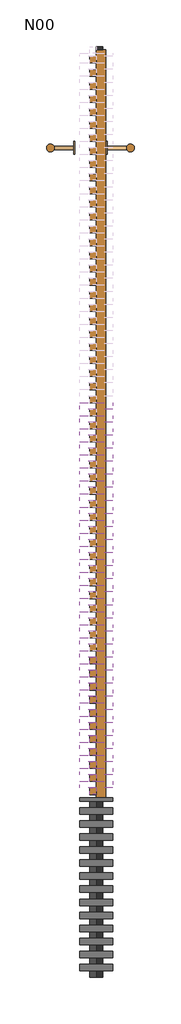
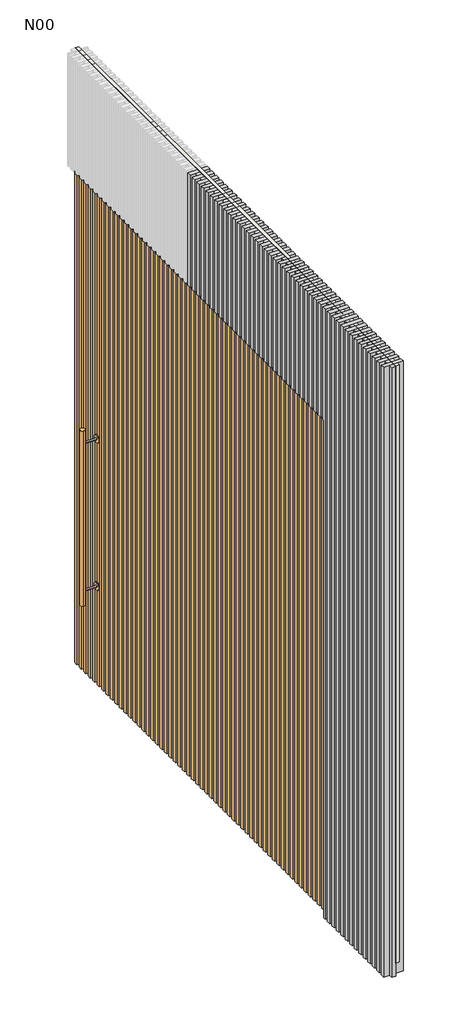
# One storey, part 1 of 2: 44 plates, 25 members, 1 door, 1 wall.
"""IFC4 building model written with IfcOpenShell, lengths in millimetres."""

from ifc_helpers import new_model, si_unit, frame, origin, place, context, project, spatial, polyline, outline, extrude, transform, mapped, element, save
from components import door_230x270cm_dd2fdfbe, montante_retangular_39d8b0db, montante_retangular_b7862d56, montante_retangular_da59f7c3, painel_do_sistema_vazio_vazio_6774419f, painel_do_sistema_vazio_vazio_94448bae, painel_do_sistema_vazio_vazio_ec5db678, painel_do_sistema_vazio_vazio_6ddfdf0a

model = new_model("IFC4")

# Units and contexts
model_context = context("Model", 3, world=origin())
ifc_project = project(units=[si_unit("LENGTHUNIT", "METRE", prefix="MILLI")], contexts=[model_context])

# Site, building, storey
site = spatial("IfcSite", under=ifc_project)
building = spatial("IfcBuilding", under=site)
storey = spatial("IfcBuildingStorey", under=building, Name="N00", Elevation=0.0)

# Door
placement = place(None, origin())
door_230x270cm_shape = door_230x270cm_dd2fdfbe(model_context)
element("IfcDoor", 1, ObjectType="ARQ_Porta_Pivotante_1F_Ripado : 230x270cm", at=placement, inside=storey, context=model_context, shape_type="MappedRepresentation", body=[
    mapped(door_230x270cm_shape, transform((11838.4106986, 1710.8169004, 0.0), x_axis=(0.0, 1.0, 0.0), y_axis=(-1.0, 0.0, 0.0), z_axis=(0.0, 0.0, 1.0))),
])

# Members
montante_retangular_shape = montante_retangular_39d8b0db(model_context)
element("IfcMember", 2, ObjectType="Montante retangular : ARQ_RIPAS", at=placement, inside=storey, context=model_context, shape_type="MappedRepresentation", body=[
    mapped(montante_retangular_shape, transform((11828.4106986, 70.8169007, 0.0), x_axis=(0.0, 1.0, 0.0), y_axis=(1.0, 0.0, 0.0), z_axis=(0.0, 0.0, -1.0))),
])
element("IfcMember", 3, ObjectType="Montante retangular : ARQ_RIPAS", at=placement, inside=storey, context=model_context, shape_type="MappedRepresentation", body=[
    mapped(montante_retangular_shape, transform((11828.4106986, 110.8169007, 0.0), x_axis=(0.0, 1.0, 0.0), y_axis=(1.0, 0.0, 0.0), z_axis=(0.0, 0.0, -1.0))),
])
element("IfcMember", 4, ObjectType="Montante retangular : ARQ_RIPAS", at=placement, inside=storey, context=model_context, shape_type="MappedRepresentation", body=[
    mapped(montante_retangular_shape, transform((11828.4106986, 150.8169007, 0.0), x_axis=(0.0, 1.0, 0.0), y_axis=(1.0, 0.0, 0.0), z_axis=(0.0, 0.0, -1.0))),
])
element("IfcMember", 5, ObjectType="Montante retangular : ARQ_RIPAS", at=placement, inside=storey, context=model_context, shape_type="MappedRepresentation", body=[
    mapped(montante_retangular_shape, transform((11828.4106986, 190.8169007, 0.0), x_axis=(0.0, 1.0, 0.0), y_axis=(1.0, 0.0, 0.0), z_axis=(0.0, 0.0, -1.0))),
])
element("IfcMember", 6, ObjectType="Montante retangular : ARQ_RIPAS", at=placement, inside=storey, context=model_context, shape_type="MappedRepresentation", body=[
    mapped(montante_retangular_shape, transform((11828.4106986, 230.8169007, 0.0), x_axis=(0.0, 1.0, 0.0), y_axis=(1.0, 0.0, 0.0), z_axis=(0.0, 0.0, -1.0))),
])
element("IfcMember", 7, ObjectType="Montante retangular : ARQ_RIPAS", at=placement, inside=storey, context=model_context, shape_type="MappedRepresentation", body=[
    mapped(montante_retangular_shape, transform((11828.4106986, 270.8169007, 0.0), x_axis=(0.0, 1.0, 0.0), y_axis=(1.0, 0.0, 0.0), z_axis=(0.0, 0.0, -1.0))),
])
element("IfcMember", 8, ObjectType="Montante retangular : ARQ_RIPAS", at=placement, inside=storey, context=model_context, shape_type="MappedRepresentation", body=[
    mapped(montante_retangular_shape, transform((11828.4106986, 310.8169007, 0.0), x_axis=(0.0, 1.0, 0.0), y_axis=(1.0, 0.0, 0.0), z_axis=(0.0, 0.0, -1.0))),
])
element("IfcMember", 9, ObjectType="Montante retangular : ARQ_RIPAS", at=placement, inside=storey, context=model_context, shape_type="MappedRepresentation", body=[
    mapped(montante_retangular_shape, transform((11828.4106986, 350.8169007, 0.0), x_axis=(0.0, 1.0, 0.0), y_axis=(1.0, 0.0, 0.0), z_axis=(0.0, 0.0, -1.0))),
])
element("IfcMember", 10, ObjectType="Montante retangular : ARQ_RIPAS", at=placement, inside=storey, context=model_context, shape_type="MappedRepresentation", body=[
    mapped(montante_retangular_shape, transform((11828.4106986, 390.8169007, 0.0), x_axis=(0.0, 1.0, 0.0), y_axis=(1.0, 0.0, 0.0), z_axis=(0.0, 0.0, -1.0))),
])
element("IfcMember", 11, ObjectType="Montante retangular : ARQ_RIPAS", at=placement, inside=storey, context=model_context, shape_type="MappedRepresentation", body=[
    mapped(montante_retangular_shape, transform((11828.4106986, 430.8169007, 0.0), x_axis=(0.0, 1.0, 0.0), y_axis=(1.0, 0.0, 0.0), z_axis=(0.0, 0.0, -1.0))),
])
element("IfcMember", 12, ObjectType="Montante retangular : ARQ_RIPAS", at=placement, inside=storey, context=model_context, shape_type="MappedRepresentation", body=[
    mapped(montante_retangular_shape, transform((11828.4106986, 470.8169007, 0.0), x_axis=(0.0, 1.0, 0.0), y_axis=(1.0, 0.0, 0.0), z_axis=(0.0, 0.0, -1.0))),
])
element("IfcMember", 13, ObjectType="Montante retangular : ARQ_RIPAS", at=placement, inside=storey, context=model_context, shape_type="MappedRepresentation", body=[
    mapped(montante_retangular_shape, transform((11828.4106986, 510.8169007, 0.0), x_axis=(0.0, 1.0, 0.0), y_axis=(1.0, 0.0, 0.0), z_axis=(0.0, 0.0, -1.0))),
])
element("IfcMember", 14, ObjectType="Montante retangular : ARQ_RIPAS", at=placement, inside=storey, context=model_context, shape_type="MappedRepresentation", body=[
    mapped(montante_retangular_shape, transform((11828.4106986, 550.8169007, 0.0), x_axis=(0.0, 1.0, 0.0), y_axis=(1.0, 0.0, 0.0), z_axis=(0.0, 0.0, -1.0))),
])
montante_retangular_2_shape = montante_retangular_b7862d56(model_context)
element("IfcMember", 15, ObjectType="Montante retangular : ARQ_RIPAS", at=placement, inside=storey, context=model_context, shape_type="MappedRepresentation", body=[
    mapped(montante_retangular_2_shape, transform((11828.4106986, 20.8169004, 3310.0), x_axis=(0.0, -1.0, 0.0), y_axis=(1.0, 0.0, 0.0), z_axis=(0.0, 0.0, 1.0))),
])
montante_retangular_3_shape = montante_retangular_da59f7c3(model_context)
element("IfcMember", 16, ObjectType="Montante retangular : ARQ_RIPAS", at=placement, inside=storey, context=model_context, shape_type="MappedRepresentation", body=[
    mapped(montante_retangular_3_shape, transform((11828.4106986, 590.8169007, 2700.0), x_axis=(0.0, 1.0, 0.0), y_axis=(1.0, 0.0, 0.0), z_axis=(0.0, 0.0, -1.0))),
])
element("IfcMember", 17, ObjectType="Montante retangular : ARQ_RIPAS", at=placement, inside=storey, context=model_context, shape_type="MappedRepresentation", body=[
    mapped(montante_retangular_3_shape, transform((11828.4106986, 630.8169007, 2700.0), x_axis=(0.0, 1.0, 0.0), y_axis=(1.0, 0.0, 0.0), z_axis=(0.0, 0.0, -1.0))),
])
element("IfcMember", 18, ObjectType="Montante retangular : ARQ_RIPAS", at=placement, inside=storey, context=model_context, shape_type="MappedRepresentation", body=[
    mapped(montante_retangular_3_shape, transform((11828.4106986, 670.8169007, 2700.0), x_axis=(0.0, 1.0, 0.0), y_axis=(1.0, 0.0, 0.0), z_axis=(0.0, 0.0, -1.0))),
])
element("IfcMember", 19, ObjectType="Montante retangular : ARQ_RIPAS", at=placement, inside=storey, context=model_context, shape_type="MappedRepresentation", body=[
    mapped(montante_retangular_3_shape, transform((11828.4106986, 710.8169007, 2700.0), x_axis=(0.0, 1.0, 0.0), y_axis=(1.0, 0.0, 0.0), z_axis=(0.0, 0.0, -1.0))),
])
element("IfcMember", 20, ObjectType="Montante retangular : ARQ_RIPAS", at=placement, inside=storey, context=model_context, shape_type="MappedRepresentation", body=[
    mapped(montante_retangular_3_shape, transform((11828.4106986, 750.8169007, 2700.0), x_axis=(0.0, 1.0, 0.0), y_axis=(1.0, 0.0, 0.0), z_axis=(0.0, 0.0, -1.0))),
])
element("IfcMember", 21, ObjectType="Montante retangular : ARQ_RIPAS", at=placement, inside=storey, context=model_context, shape_type="MappedRepresentation", body=[
    mapped(montante_retangular_3_shape, transform((11828.4106986, 790.8169007, 2700.0), x_axis=(0.0, 1.0, 0.0), y_axis=(1.0, 0.0, 0.0), z_axis=(0.0, 0.0, -1.0))),
])
element("IfcMember", 22, ObjectType="Montante retangular : ARQ_RIPAS", at=placement, inside=storey, context=model_context, shape_type="MappedRepresentation", body=[
    mapped(montante_retangular_3_shape, transform((11828.4106986, 830.8169007, 2700.0), x_axis=(0.0, 1.0, 0.0), y_axis=(1.0, 0.0, 0.0), z_axis=(0.0, 0.0, -1.0))),
])
element("IfcMember", 23, ObjectType="Montante retangular : ARQ_RIPAS", at=placement, inside=storey, context=model_context, shape_type="MappedRepresentation", body=[
    mapped(montante_retangular_3_shape, transform((11828.4106986, 870.8169007, 2700.0), x_axis=(0.0, 1.0, 0.0), y_axis=(1.0, 0.0, 0.0), z_axis=(0.0, 0.0, -1.0))),
])
element("IfcMember", 24, ObjectType="Montante retangular : ARQ_RIPAS", at=placement, inside=storey, context=model_context, shape_type="MappedRepresentation", body=[
    mapped(montante_retangular_3_shape, transform((11828.4106986, 910.8169007, 2700.0), x_axis=(0.0, 1.0, 0.0), y_axis=(1.0, 0.0, 0.0), z_axis=(0.0, 0.0, -1.0))),
])
element("IfcMember", 25, ObjectType="Montante retangular : ARQ_RIPAS", at=placement, inside=storey, context=model_context, shape_type="MappedRepresentation", body=[
    mapped(montante_retangular_3_shape, transform((11828.4106986, 950.8169007, 2700.0), x_axis=(0.0, 1.0, 0.0), y_axis=(1.0, 0.0, 0.0), z_axis=(0.0, 0.0, -1.0))),
])
element("IfcMember", 26, ObjectType="Montante retangular : ARQ_RIPAS", at=placement, inside=storey, context=model_context, shape_type="MappedRepresentation", body=[
    mapped(montante_retangular_3_shape, transform((11828.4106986, 990.8169007, 2700.0), x_axis=(0.0, 1.0, 0.0), y_axis=(1.0, 0.0, 0.0), z_axis=(0.0, 0.0, -1.0))),
])

# Plates
painel_do_sistema_vazio_vazio_shape = painel_do_sistema_vazio_vazio_6774419f(model_context)
element("IfcPlate", 27, ObjectType="Painel do sistema vazio : Vazio", at=placement, inside=storey, context=model_context, shape_type="MappedRepresentation", body=[
    mapped(painel_do_sistema_vazio_vazio_shape, transform((11828.4106986, 50.8169005, 0.0), x_axis=(0.0, 1.0, 0.0), y_axis=(-1.0, 0.0, 0.0), z_axis=(0.0, 0.0, 1.0))),
])
painel_do_sistema_vazio_vazio_2_shape = painel_do_sistema_vazio_vazio_94448bae(model_context)
element("IfcPlate", 28, ObjectType="Painel do sistema vazio : Vazio", at=placement, inside=storey, context=model_context, shape_type="MappedRepresentation", body=[
    mapped(painel_do_sistema_vazio_vazio_2_shape, transform((11828.4106986, 90.8169007, 0.0), x_axis=(0.0, 1.0, 0.0), y_axis=(-1.0, 0.0, 0.0), z_axis=(0.0, 0.0, 1.0))),
])
element("IfcPlate", 29, ObjectType="Painel do sistema vazio : Vazio", at=placement, inside=storey, context=model_context, shape_type="MappedRepresentation", body=[
    mapped(painel_do_sistema_vazio_vazio_2_shape, transform((11828.4106986, 130.8169007, 0.0), x_axis=(0.0, 1.0, 0.0), y_axis=(-1.0, 0.0, 0.0), z_axis=(0.0, 0.0, 1.0))),
])
element("IfcPlate", 30, ObjectType="Painel do sistema vazio : Vazio", at=placement, inside=storey, context=model_context, shape_type="MappedRepresentation", body=[
    mapped(painel_do_sistema_vazio_vazio_2_shape, transform((11828.4106986, 170.8169007, 0.0), x_axis=(0.0, 1.0, 0.0), y_axis=(-1.0, 0.0, 0.0), z_axis=(0.0, 0.0, 1.0))),
])
element("IfcPlate", 31, ObjectType="Painel do sistema vazio : Vazio", at=placement, inside=storey, context=model_context, shape_type="MappedRepresentation", body=[
    mapped(painel_do_sistema_vazio_vazio_2_shape, transform((11828.4106986, 210.8169007, 0.0), x_axis=(0.0, 1.0, 0.0), y_axis=(-1.0, 0.0, 0.0), z_axis=(0.0, 0.0, 1.0))),
])
element("IfcPlate", 32, ObjectType="Painel do sistema vazio : Vazio", at=placement, inside=storey, context=model_context, shape_type="MappedRepresentation", body=[
    mapped(painel_do_sistema_vazio_vazio_2_shape, transform((11828.4106986, 250.8169007, 0.0), x_axis=(0.0, 1.0, 0.0), y_axis=(-1.0, 0.0, 0.0), z_axis=(0.0, 0.0, 1.0))),
])
element("IfcPlate", 33, ObjectType="Painel do sistema vazio : Vazio", at=placement, inside=storey, context=model_context, shape_type="MappedRepresentation", body=[
    mapped(painel_do_sistema_vazio_vazio_2_shape, transform((11828.4106986, 290.8169007, 0.0), x_axis=(0.0, 1.0, 0.0), y_axis=(-1.0, 0.0, 0.0), z_axis=(0.0, 0.0, 1.0))),
])
element("IfcPlate", 34, ObjectType="Painel do sistema vazio : Vazio", at=placement, inside=storey, context=model_context, shape_type="MappedRepresentation", body=[
    mapped(painel_do_sistema_vazio_vazio_2_shape, transform((11828.4106986, 330.8169007, 0.0), x_axis=(0.0, 1.0, 0.0), y_axis=(-1.0, 0.0, 0.0), z_axis=(0.0, 0.0, 1.0))),
])
element("IfcPlate", 35, ObjectType="Painel do sistema vazio : Vazio", at=placement, inside=storey, context=model_context, shape_type="MappedRepresentation", body=[
    mapped(painel_do_sistema_vazio_vazio_2_shape, transform((11828.4106986, 370.8169007, 0.0), x_axis=(0.0, 1.0, 0.0), y_axis=(-1.0, 0.0, 0.0), z_axis=(0.0, 0.0, 1.0))),
])
element("IfcPlate", 36, ObjectType="Painel do sistema vazio : Vazio", at=placement, inside=storey, context=model_context, shape_type="MappedRepresentation", body=[
    mapped(painel_do_sistema_vazio_vazio_2_shape, transform((11828.4106986, 410.8169007, 0.0), x_axis=(0.0, 1.0, 0.0), y_axis=(-1.0, 0.0, 0.0), z_axis=(0.0, 0.0, 1.0))),
])
element("IfcPlate", 37, ObjectType="Painel do sistema vazio : Vazio", at=placement, inside=storey, context=model_context, shape_type="MappedRepresentation", body=[
    mapped(painel_do_sistema_vazio_vazio_2_shape, transform((11828.4106986, 450.8169007, 0.0), x_axis=(0.0, 1.0, 0.0), y_axis=(-1.0, 0.0, 0.0), z_axis=(0.0, 0.0, 1.0))),
])
element("IfcPlate", 38, ObjectType="Painel do sistema vazio : Vazio", at=placement, inside=storey, context=model_context, shape_type="MappedRepresentation", body=[
    mapped(painel_do_sistema_vazio_vazio_2_shape, transform((11828.4106986, 490.8169007, 0.0), x_axis=(0.0, 1.0, 0.0), y_axis=(-1.0, 0.0, 0.0), z_axis=(0.0, 0.0, 1.0))),
])
element("IfcPlate", 39, ObjectType="Painel do sistema vazio : Vazio", at=placement, inside=storey, context=model_context, shape_type="MappedRepresentation", body=[
    mapped(painel_do_sistema_vazio_vazio_2_shape, transform((11828.4106986, 530.8169007, 0.0), x_axis=(0.0, 1.0, 0.0), y_axis=(-1.0, 0.0, 0.0), z_axis=(0.0, 0.0, 1.0))),
])
painel_do_sistema_vazio_vazio_3_shape = painel_do_sistema_vazio_vazio_ec5db678(model_context)
element("IfcPlate", 40, ObjectType="Painel do sistema vazio : Vazio", at=placement, inside=storey, context=model_context, shape_type="MappedRepresentation", body=[
    mapped(painel_do_sistema_vazio_vazio_3_shape, transform((11828.4106986, 570.8169007, 0.0), x_axis=(0.0, 1.0, 0.0), y_axis=(-1.0, 0.0, 0.0), z_axis=(0.0, 0.0, 1.0))),
])
painel_do_sistema_vazio_vazio_4_shape = painel_do_sistema_vazio_vazio_6ddfdf0a(model_context)
element("IfcPlate", 41, ObjectType="Painel do sistema vazio : Vazio", at=placement, inside=storey, context=model_context, shape_type="MappedRepresentation", body=[
    mapped(painel_do_sistema_vazio_vazio_4_shape, transform((11828.4106986, 610.8169007, 2700.0), x_axis=(0.0, 1.0, 0.0), y_axis=(-1.0, 0.0, 0.0), z_axis=(0.0, 0.0, 1.0))),
])
element("IfcPlate", 42, ObjectType="Painel do sistema vazio : Vazio", at=placement, inside=storey, context=model_context, shape_type="MappedRepresentation", body=[
    mapped(painel_do_sistema_vazio_vazio_4_shape, transform((11828.4106986, 650.8169007, 2700.0), x_axis=(0.0, 1.0, 0.0), y_axis=(-1.0, 0.0, 0.0), z_axis=(0.0, 0.0, 1.0))),
])
element("IfcPlate", 43, ObjectType="Painel do sistema vazio : Vazio", at=placement, inside=storey, context=model_context, shape_type="MappedRepresentation", body=[
    mapped(painel_do_sistema_vazio_vazio_4_shape, transform((11828.4106986, 690.8169007, 2700.0), x_axis=(0.0, 1.0, 0.0), y_axis=(-1.0, 0.0, 0.0), z_axis=(0.0, 0.0, 1.0))),
])
element("IfcPlate", 44, ObjectType="Painel do sistema vazio : Vazio", at=placement, inside=storey, context=model_context, shape_type="MappedRepresentation", body=[
    mapped(painel_do_sistema_vazio_vazio_4_shape, transform((11828.4106986, 730.8169007, 2700.0), x_axis=(0.0, 1.0, 0.0), y_axis=(-1.0, 0.0, 0.0), z_axis=(0.0, 0.0, 1.0))),
])
element("IfcPlate", 45, ObjectType="Painel do sistema vazio : Vazio", at=placement, inside=storey, context=model_context, shape_type="MappedRepresentation", body=[
    mapped(painel_do_sistema_vazio_vazio_4_shape, transform((11828.4106986, 770.8169007, 2700.0), x_axis=(0.0, 1.0, 0.0), y_axis=(-1.0, 0.0, 0.0), z_axis=(0.0, 0.0, 1.0))),
])
element("IfcPlate", 46, ObjectType="Painel do sistema vazio : Vazio", at=placement, inside=storey, context=model_context, shape_type="MappedRepresentation", body=[
    mapped(painel_do_sistema_vazio_vazio_4_shape, transform((11828.4106986, 810.8169007, 2700.0), x_axis=(0.0, 1.0, 0.0), y_axis=(-1.0, 0.0, 0.0), z_axis=(0.0, 0.0, 1.0))),
])
element("IfcPlate", 47, ObjectType="Painel do sistema vazio : Vazio", at=placement, inside=storey, context=model_context, shape_type="MappedRepresentation", body=[
    mapped(painel_do_sistema_vazio_vazio_4_shape, transform((11828.4106986, 850.8169007, 2700.0), x_axis=(0.0, 1.0, 0.0), y_axis=(-1.0, 0.0, 0.0), z_axis=(0.0, 0.0, 1.0))),
])
element("IfcPlate", 48, ObjectType="Painel do sistema vazio : Vazio", at=placement, inside=storey, context=model_context, shape_type="MappedRepresentation", body=[
    mapped(painel_do_sistema_vazio_vazio_4_shape, transform((11828.4106986, 890.8169007, 2700.0), x_axis=(0.0, 1.0, 0.0), y_axis=(-1.0, 0.0, 0.0), z_axis=(0.0, 0.0, 1.0))),
])
element("IfcPlate", 49, ObjectType="Painel do sistema vazio : Vazio", at=placement, inside=storey, context=model_context, shape_type="MappedRepresentation", body=[
    mapped(painel_do_sistema_vazio_vazio_4_shape, transform((11828.4106986, 930.8169007, 2700.0), x_axis=(0.0, 1.0, 0.0), y_axis=(-1.0, 0.0, 0.0), z_axis=(0.0, 0.0, 1.0))),
])
element("IfcPlate", 50, ObjectType="Painel do sistema vazio : Vazio", at=placement, inside=storey, context=model_context, shape_type="MappedRepresentation", body=[
    mapped(painel_do_sistema_vazio_vazio_4_shape, transform((11828.4106986, 970.8169007, 2700.0), x_axis=(0.0, 1.0, 0.0), y_axis=(-1.0, 0.0, 0.0), z_axis=(0.0, 0.0, 1.0))),
])
element("IfcPlate", 51, ObjectType="Painel do sistema vazio : Vazio", at=placement, inside=storey, context=model_context, shape_type="MappedRepresentation", body=[
    mapped(painel_do_sistema_vazio_vazio_4_shape, transform((11828.4106986, 1010.8169007, 2700.0), x_axis=(0.0, 1.0, 0.0), y_axis=(-1.0, 0.0, 0.0), z_axis=(0.0, 0.0, 1.0))),
])
element("IfcPlate", 52, ObjectType="Painel do sistema vazio : Vazio", at=placement, inside=storey, context=model_context, shape_type="MappedRepresentation", body=[
    mapped(painel_do_sistema_vazio_vazio_4_shape, transform((11828.4106986, 1050.8169007, 2700.0), x_axis=(0.0, 1.0, 0.0), y_axis=(-1.0, 0.0, 0.0), z_axis=(0.0, 0.0, 1.0))),
])
element("IfcPlate", 53, ObjectType="Painel do sistema vazio : Vazio", at=placement, inside=storey, context=model_context, shape_type="MappedRepresentation", body=[
    mapped(painel_do_sistema_vazio_vazio_4_shape, transform((11828.4106986, 1090.8169007, 2700.0), x_axis=(0.0, 1.0, 0.0), y_axis=(-1.0, 0.0, 0.0), z_axis=(0.0, 0.0, 1.0))),
])
element("IfcPlate", 54, ObjectType="Painel do sistema vazio : Vazio", at=placement, inside=storey, context=model_context, shape_type="MappedRepresentation", body=[
    mapped(painel_do_sistema_vazio_vazio_4_shape, transform((11828.4106986, 1130.8169007, 2700.0), x_axis=(0.0, 1.0, 0.0), y_axis=(-1.0, 0.0, 0.0), z_axis=(0.0, 0.0, 1.0))),
])
element("IfcPlate", 55, ObjectType="Painel do sistema vazio : Vazio", at=placement, inside=storey, context=model_context, shape_type="MappedRepresentation", body=[
    mapped(painel_do_sistema_vazio_vazio_4_shape, transform((11828.4106986, 1170.8169007, 2700.0), x_axis=(0.0, 1.0, 0.0), y_axis=(-1.0, 0.0, 0.0), z_axis=(0.0, 0.0, 1.0))),
])
element("IfcPlate", 56, ObjectType="Painel do sistema vazio : Vazio", at=placement, inside=storey, context=model_context, shape_type="MappedRepresentation", body=[
    mapped(painel_do_sistema_vazio_vazio_4_shape, transform((11828.4106986, 1210.8169007, 2700.0), x_axis=(0.0, 1.0, 0.0), y_axis=(-1.0, 0.0, 0.0), z_axis=(0.0, 0.0, 1.0))),
])
element("IfcPlate", 57, ObjectType="Painel do sistema vazio : Vazio", at=placement, inside=storey, context=model_context, shape_type="MappedRepresentation", body=[
    mapped(painel_do_sistema_vazio_vazio_4_shape, transform((11828.4106986, 1250.8169007, 2700.0), x_axis=(0.0, 1.0, 0.0), y_axis=(-1.0, 0.0, 0.0), z_axis=(0.0, 0.0, 1.0))),
])
element("IfcPlate", 58, ObjectType="Painel do sistema vazio : Vazio", at=placement, inside=storey, context=model_context, shape_type="MappedRepresentation", body=[
    mapped(painel_do_sistema_vazio_vazio_4_shape, transform((11828.4106986, 1290.8169007, 2700.0), x_axis=(0.0, 1.0, 0.0), y_axis=(-1.0, 0.0, 0.0), z_axis=(0.0, 0.0, 1.0))),
])
element("IfcPlate", 59, ObjectType="Painel do sistema vazio : Vazio", at=placement, inside=storey, context=model_context, shape_type="MappedRepresentation", body=[
    mapped(painel_do_sistema_vazio_vazio_4_shape, transform((11828.4106986, 1330.8169007, 2700.0), x_axis=(0.0, 1.0, 0.0), y_axis=(-1.0, 0.0, 0.0), z_axis=(0.0, 0.0, 1.0))),
])
element("IfcPlate", 60, ObjectType="Painel do sistema vazio : Vazio", at=placement, inside=storey, context=model_context, shape_type="MappedRepresentation", body=[
    mapped(painel_do_sistema_vazio_vazio_4_shape, transform((11828.4106986, 1370.8169007, 2700.0), x_axis=(0.0, 1.0, 0.0), y_axis=(-1.0, 0.0, 0.0), z_axis=(0.0, 0.0, 1.0))),
])
element("IfcPlate", 61, ObjectType="Painel do sistema vazio : Vazio", at=placement, inside=storey, context=model_context, shape_type="MappedRepresentation", body=[
    mapped(painel_do_sistema_vazio_vazio_4_shape, transform((11828.4106986, 1410.8169007, 2700.0), x_axis=(0.0, 1.0, 0.0), y_axis=(-1.0, 0.0, 0.0), z_axis=(0.0, 0.0, 1.0))),
])
element("IfcPlate", 62, ObjectType="Painel do sistema vazio : Vazio", at=placement, inside=storey, context=model_context, shape_type="MappedRepresentation", body=[
    mapped(painel_do_sistema_vazio_vazio_4_shape, transform((11828.4106986, 1450.8169007, 2700.0), x_axis=(0.0, 1.0, 0.0), y_axis=(-1.0, 0.0, 0.0), z_axis=(0.0, 0.0, 1.0))),
])
element("IfcPlate", 63, ObjectType="Painel do sistema vazio : Vazio", at=placement, inside=storey, context=model_context, shape_type="MappedRepresentation", body=[
    mapped(painel_do_sistema_vazio_vazio_4_shape, transform((11828.4106986, 1490.8169007, 2700.0), x_axis=(0.0, 1.0, 0.0), y_axis=(-1.0, 0.0, 0.0), z_axis=(0.0, 0.0, 1.0))),
])
element("IfcPlate", 64, ObjectType="Painel do sistema vazio : Vazio", at=placement, inside=storey, context=model_context, shape_type="MappedRepresentation", body=[
    mapped(painel_do_sistema_vazio_vazio_4_shape, transform((11828.4106986, 1530.8169007, 2700.0), x_axis=(0.0, 1.0, 0.0), y_axis=(-1.0, 0.0, 0.0), z_axis=(0.0, 0.0, 1.0))),
])
element("IfcPlate", 65, ObjectType="Painel do sistema vazio : Vazio", at=placement, inside=storey, context=model_context, shape_type="MappedRepresentation", body=[
    mapped(painel_do_sistema_vazio_vazio_4_shape, transform((11828.4106986, 1570.8169007, 2700.0), x_axis=(0.0, 1.0, 0.0), y_axis=(-1.0, 0.0, 0.0), z_axis=(0.0, 0.0, 1.0))),
])
element("IfcPlate", 66, ObjectType="Painel do sistema vazio : Vazio", at=placement, inside=storey, context=model_context, shape_type="MappedRepresentation", body=[
    mapped(painel_do_sistema_vazio_vazio_4_shape, transform((11828.4106986, 1610.8169007, 2700.0), x_axis=(0.0, 1.0, 0.0), y_axis=(-1.0, 0.0, 0.0), z_axis=(0.0, 0.0, 1.0))),
])
element("IfcPlate", 67, ObjectType="Painel do sistema vazio : Vazio", at=placement, inside=storey, context=model_context, shape_type="MappedRepresentation", body=[
    mapped(painel_do_sistema_vazio_vazio_4_shape, transform((11828.4106986, 1650.8169007, 2700.0), x_axis=(0.0, 1.0, 0.0), y_axis=(-1.0, 0.0, 0.0), z_axis=(0.0, 0.0, 1.0))),
])
element("IfcPlate", 68, ObjectType="Painel do sistema vazio : Vazio", at=placement, inside=storey, context=model_context, shape_type="MappedRepresentation", body=[
    mapped(painel_do_sistema_vazio_vazio_4_shape, transform((11828.4106986, 1690.8169007, 2700.0), x_axis=(0.0, 1.0, 0.0), y_axis=(-1.0, 0.0, 0.0), z_axis=(0.0, 0.0, 1.0))),
])
element("IfcPlate", 69, ObjectType="Painel do sistema vazio : Vazio", at=placement, inside=storey, context=model_context, shape_type="MappedRepresentation", body=[
    mapped(painel_do_sistema_vazio_vazio_4_shape, transform((11828.4106986, 1730.8169007, 2700.0), x_axis=(0.0, 1.0, 0.0), y_axis=(-1.0, 0.0, 0.0), z_axis=(0.0, 0.0, 1.0))),
])
element("IfcPlate", 70, ObjectType="Painel do sistema vazio : Vazio", at=placement, inside=storey, context=model_context, shape_type="MappedRepresentation", body=[
    mapped(painel_do_sistema_vazio_vazio_4_shape, transform((11828.4106986, 1770.8169007, 2700.0), x_axis=(0.0, 1.0, 0.0), y_axis=(-1.0, 0.0, 0.0), z_axis=(0.0, 0.0, 1.0))),
])

# Wall
element("IfcWall", 71, ObjectType="ARQ_Parede_Painel_Ripado_Fundo", at=placement, inside=storey, context=model_context, shape_type="SweptSolid", body=[
    extrude(outline(polyline([(2870.8169004, 3310.0), (2870.8169004, 70.0), (2860.8169004, 70.0), (2860.8169004, 2700.0), (560.8169004, 2700.0), (560.8169004, 70.0), (20.8169004, 70.0), (20.8169004, 3310.0), (2870.8169004, 3310.0)])), frame((11828.4106986, 0.0, 0.0), z_axis=(1.0, 0.0, 0.0), x_axis=(0.0, 1.0, 0.0)), (0.0, 0.0, 1.0), 20.0),
])

save(model, "model.ifc")
